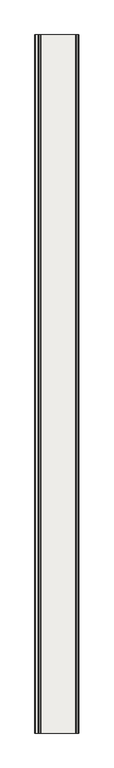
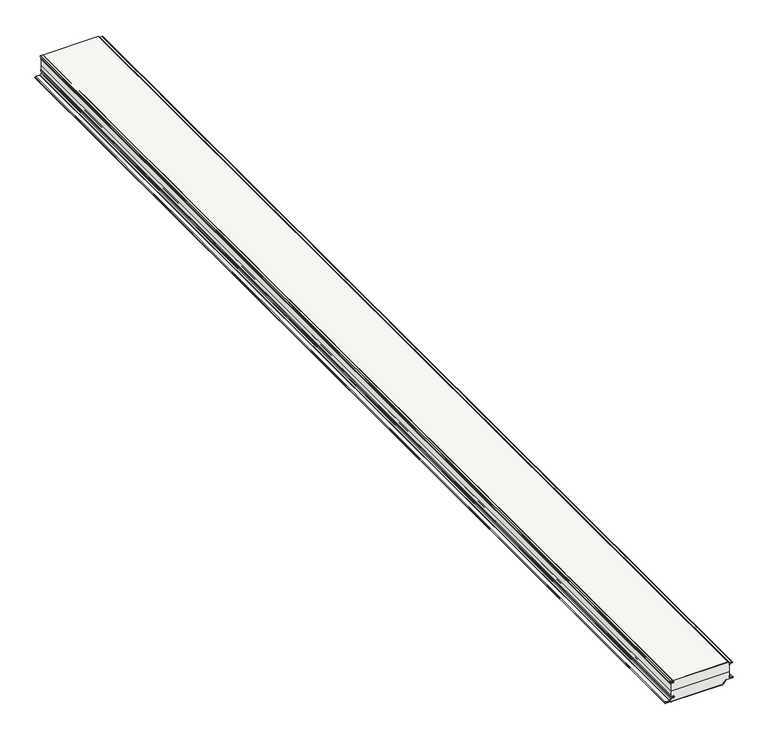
"""IFC4 building model written with IfcOpenShell, lengths in millimetres: covering geometry, Wall sandwich panel SPW-H CORE PIR (single sheet) : -."""

from ifc_helpers import new_model, si_unit, point, frame, frame_2d, origin, place, context, project, spatial, polyline, circle_curve, trimmed, segment, composite_curve, outline, extrude, source, transform, mapped, element, save
from ifc_brep_helpers import plane_surface, cylinder_surface, revolved_surface, advanced_brep


def covering_1c25aafc(model_context):
    return source(origin(), model_context, "Body", "SolidModel", [
        extrude(outline(composite_curve([segment(polyline([(-15.1088808, -358.2590335), (-14.5423642, -347.4488908)]), True, "CONTINUOUS"), segment(trimmed(circle_curve(frame_2d((-9.549216, -347.7105619)), 5.0), [point((-14.5423642, -347.4488908))], [point((-4.5522622, -347.5360557))], False, "CARTESIAN"), True, "CONTINUOUS"), segment(polyline([(-4.5522622, -347.5360557), (-4.0495702, -361.9305506)]), True, "CONTINUOUS"), segment(trimmed(circle_curve(frame_2d((-2.5266447, -361.8240519)), 1.5266447), [point((-4.0495702, -361.9305506))], [point((-1.0, -361.8240519))], True, "CARTESIAN"), True, "CONTINUOUS"), segment(polyline([(-1.0, -361.8240519), (-1.0, -360.2066993), (0.0, -360.2066993), (0.0, -361.8240519)]), True, "CONTINUOUS"), segment(trimmed(circle_curve(frame_2d((-2.5266447, -361.8240519)), 2.5266447), [point((0.0, -361.8240519))], [point((-5.0484281, -361.9807108))], False, "CARTESIAN"), True, "CONTINUOUS"), segment(polyline([(-5.0484281, -361.9807108), (-5.551653, -347.5709569)]), True, "CONTINUOUS"), segment(trimmed(circle_curve(frame_2d((-9.549216, -347.7105619)), 4.0), [point((-5.551653, -347.5709569))], [point((-13.5437346, -347.501225))], True, "CARTESIAN"), True, "CONTINUOUS"), segment(polyline([(-13.5437346, -347.501225), (-14.1102512, -358.3113677)]), True, "CONTINUOUS"), segment(trimmed(circle_curve(frame_2d((-16.1075105, -358.2066993)), 2.0), [point((-14.1102512, -358.3113677))], [point((-16.1075105, -360.2066993))], False, "CARTESIAN"), True, "CONTINUOUS"), segment(polyline([(-16.1075105, -360.2066993), (-18.1075105, -360.2066993), (-18.1075105, -359.2066993), (-16.1075105, -359.2066993)]), True, "CONTINUOUS"), segment(trimmed(circle_curve(frame_2d((-16.1075105, -358.2066993)), 1.0), [point((-16.1075105, -359.2066993))], [point((-15.1088808, -358.2590335))], True, "CARTESIAN"), True, "CONTINUOUS")], self_intersect=False)), frame((0.0, -6000.0, 0.0), z_axis=(0.0, 1.0, 0.0), x_axis=(0.0, 0.0, 1.0)), (0.0, 0.0, 1.0), 6000.0),
        advanced_brep(
        [(-355.7891872, -6000.0, -102.0150874), (-344.5391872, -6000.0, -101.9992045), (-344.2776818, -6000.0, -92.0060522), (-358.4809204, -6000.0, -91.2619406), (-359.2066993, -6000.0, -90.4971426), (-359.2066993, -6000.0, -81.4971426), (-360.2066993, -6000.0, -81.4971426), (-360.2066993, -6000.0, -90.4971426), (-358.5332389, -6000.0, -92.260571), (-344.3300003, -6000.0, -93.0046827), (-344.539863, -6000.0, -100.9992044), (-355.8463575, -6000.0, -101.0151671), (-357.9966384, -6000.0, -102.27871), (-363.3563627, -6000.0, -109.933474), (-365.4042242, -6000.0, -110.9995686), (-388.6210738, -6000.0, -110.9999738), (-388.6209953, -6000.0, -120.0), (-360.2066993, -6000.0, -120.0), (-360.2066993, -6000.0, -119.0), (-388.6209953, -6000.0, -119.0), (-388.6210564, -6000.0, -112.0), (-365.4042068, -6000.0, -111.9995686), (-362.5372007, -6000.0, -110.5070361), (-357.1774764, -6000.0, -102.8522722), (-355.7891872, 0.0, -102.0150874), (-357.1774764, 0.0, -102.8522722), (-362.5372007, 0.0, -110.5070361), (-365.4042068, 0.0, -111.9995686), (-388.6210564, 0.0, -111.9999738), (-388.6209953, 0.0, -119.0), (-360.2066993, 0.0, -119.0), (-360.2066993, 0.0, -120.0), (-388.6209953, 0.0, -120.0), (-388.6210738, 0.0, -111.0), (-365.4042242, 0.0, -110.9995686), (-363.3563627, 0.0, -109.933474), (-357.9966384, 0.0, -102.27871), (-355.8463575, 0.0, -101.0151671), (-344.539863, 0.0, -100.9992044), (-344.3300003, 0.0, -93.0046827), (-358.5332389, 0.0, -92.260571), (-360.2066993, 0.0, -90.4971426), (-360.2066993, 0.0, -81.4971426), (-359.2066993, 0.0, -81.4971426), (-359.2066993, 0.0, -90.4971426), (-358.4809204, 0.0, -91.2619406), (-344.2776818, 0.0, -92.0060522), (-344.5391872, 0.0, -101.9992045)],
        [
            (0, 1),
            (1, 2, circle_curve(frame((-344.5392744, -6000.0, -96.9992045), z_axis=(0.0, -1.0, 0.0), x_axis=(1.0, 0.0, 0.0)), 5.0)),
            (2, 3),
            (3, 4, circle_curve(frame((-358.4408524, -6000.0, -90.4971426), z_axis=(0.0, 1.0, 0.0), x_axis=(1.0, 0.0, 0.0)), 0.7658469)),
            (4, 5),
            (5, 6),
            (6, 7),
            (7, 8, circle_curve(frame((-358.4408524, -6000.0, -90.4971426), z_axis=(0.0, -1.0, 0.0), x_axis=(1.0, 0.0, 0.0)), 1.7658469)),
            (8, 9),
            (9, 10, circle_curve(frame((-344.5392744, -6000.0, -96.9992045), z_axis=(0.0, 1.0, 0.0), x_axis=(1.0, 0.0, 0.0)), 4.0)),
            (10, 11),
            (11, 12, circle_curve(frame((-355.5391523, -6000.0, -103.9993964), z_axis=(0.0, -1.0, 0.0), x_axis=(1.0, 0.0, 0.0)), 3.0)),
            (12, 13),
            (13, 14, circle_curve(frame((-365.4042679, -6000.0, -108.4995686), z_axis=(0.0, 1.0, 0.0), x_axis=(1.0, 0.0, 0.0)), 2.5)),
            (14, 15),
            (15, 16, circle_curve(frame((-388.6209953, -6000.0, -115.5), z_axis=(0.0, -1.0, 0.0), x_axis=(1.0, 0.0, 0.0)), 4.5)),
            (16, 17),
            (17, 18),
            (18, 19),
            (19, 20, circle_curve(frame((-388.6209953, -6000.0, -115.5), z_axis=(0.0, 1.0, 0.0), x_axis=(1.0, 0.0, 0.0)), 3.5)),
            (20, 21),
            (21, 22, circle_curve(frame((-365.4042679, -6000.0, -108.4995686), z_axis=(0.0, -1.0, 0.0), x_axis=(1.0, 0.0, 0.0)), 3.5)),
            (22, 23),
            (23, 0, circle_curve(frame((-355.5391523, -6000.0, -103.9993964), z_axis=(0.0, 1.0, 0.0), x_axis=(1.0, 0.0, 0.0)), 2.0)),
            (24, 25, circle_curve(frame((-355.5391523, 0.0, -103.9993964), z_axis=(0.0, -1.0, 0.0), x_axis=(1.0, 0.0, 0.0)), 2.0)),
            (25, 26),
            (26, 27, circle_curve(frame((-365.4042679, 0.0, -108.4995686), z_axis=(0.0, 1.0, 0.0), x_axis=(1.0, 0.0, 0.0)), 3.5)),
            (27, 28),
            (28, 29, circle_curve(frame((-388.6209953, 0.0, -115.5), z_axis=(0.0, -1.0, 0.0), x_axis=(1.0, 0.0, 0.0)), 3.5)),
            (29, 30),
            (30, 31),
            (31, 32),
            (32, 33, circle_curve(frame((-388.6209953, 0.0, -115.5), z_axis=(0.0, 1.0, 0.0), x_axis=(1.0, 0.0, 0.0)), 4.5)),
            (33, 34),
            (34, 35, circle_curve(frame((-365.4042679, 0.0, -108.4995686), z_axis=(0.0, -1.0, 0.0), x_axis=(1.0, 0.0, 0.0)), 2.5)),
            (35, 36),
            (36, 37, circle_curve(frame((-355.5391523, 0.0, -103.9993964), z_axis=(0.0, 1.0, 0.0), x_axis=(1.0, 0.0, 0.0)), 3.0)),
            (37, 38),
            (38, 39, circle_curve(frame((-344.5392744, 0.0, -96.9992045), z_axis=(0.0, -1.0, 0.0), x_axis=(1.0, 0.0, 0.0)), 4.0)),
            (39, 40),
            (40, 41, circle_curve(frame((-358.4408524, 0.0, -90.4971426), z_axis=(0.0, 1.0, 0.0), x_axis=(1.0, 0.0, 0.0)), 1.7658469)),
            (41, 42),
            (42, 43),
            (43, 44),
            (44, 45, circle_curve(frame((-358.4408524, 0.0, -90.4971426), z_axis=(0.0, -1.0, 0.0), x_axis=(1.0, 0.0, 0.0)), 0.7658469)),
            (45, 46),
            (46, 47, circle_curve(frame((-344.5392744, 0.0, -96.9992045), z_axis=(0.0, 1.0, 0.0), x_axis=(1.0, 0.0, 0.0)), 5.0)),
            (47, 24),
            (0, 24),
            (47, 1),
            (46, 2),
            (45, 3),
            (44, 4),
            (43, 5),
            (42, 6),
            (16, 32),
            (31, 17),
            (30, 18),
            (29, 19),
            (41, 7),
            (40, 8),
            (39, 9),
            (38, 10),
            (37, 11),
            (36, 12),
            (35, 13),
            (34, 14),
            (33, 15),
            (20, 28),
            (27, 21),
            (26, 22),
            (25, 23),
        ],
        [
            plane_surface(frame((-360.2066993, -6000.0, -120.0), z_axis=(0.0, -1.0, 0.0), x_axis=(0.0, 0.0, -1.0))),
            plane_surface(frame((-360.2066993, 0.0, -120.0), z_axis=(0.0, 1.0, 0.0), x_axis=(0.0, 0.0, -1.0))),
            plane_surface(frame((-355.7891872, -6000.0, -102.0150874), z_axis=(0.001411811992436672, 0.0, -0.9999990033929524), x_axis=(0.0, 1.0, 0.0))),
            cylinder_surface(frame((-344.5392744, -6000.0, -96.9992045), z_axis=(0.0, -1.0, 0.0), x_axis=(1.0, 0.0, 0.0)), 5.0),
            plane_surface(frame((-344.2776818, -6000.0, -92.0060522), z_axis=(0.05231852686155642, 0.0, 0.998630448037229), x_axis=(0.0, 1.0, 0.0))),
            revolved_surface(polyline([(-357.6750055, 0.0, -90.4971426), (-357.6750055, -6000.0, -90.4971426)]), (-358.4408524, -6000.0, -90.4971426), (0.0, 1.0, 0.0)),
            plane_surface(frame((-359.2066993, -6000.0, -90.4971426), z_axis=(1.0, 0.0, 0.0), x_axis=(0.0, 1.0, 0.0))),
            plane_surface(frame((-359.2066993, -6000.0, -81.4971426), z_axis=(0.0, 0.0, 1.0), x_axis=(0.0, 1.0, 0.0))),
            plane_surface(frame((-388.6209953, -6000.0, -120.0), z_axis=(0.0, 0.0, -1.0), x_axis=(0.0, 1.0, 0.0))),
            plane_surface(frame((-360.2066993, -6000.0, -120.0), z_axis=(1.0, 0.0, 0.0), x_axis=(0.0, 1.0, 0.0))),
            plane_surface(frame((-360.2066993, -6000.0, -119.0), z_axis=(0.0, 0.0, 1.0), x_axis=(0.0, 1.0, 0.0))),
            plane_surface(frame((-360.2066993, -6000.0, -81.4971426), z_axis=(-1.0, 0.0, 0.0), x_axis=(0.0, 1.0, 0.0))),
            cylinder_surface(frame((-358.4408524, -6000.0, -90.4971426), z_axis=(0.0, -1.0, 0.0), x_axis=(1.0, 0.0, 0.0)), 1.7658469),
            plane_surface(frame((-358.5332389, -6000.0, -92.260571), z_axis=(-0.05231852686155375, 0.0, -0.9986304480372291), x_axis=(0.0, 1.0, 0.0))),
            revolved_surface(polyline([(-340.5392744, 0.0, -96.9992045), (-340.5392744, -6000.0, -96.9992045)]), (-344.5392744, -6000.0, -96.9992045), (0.0, 1.0, 0.0)),
            plane_surface(frame((-344.539863, -6000.0, -100.9992044), z_axis=(-0.0014118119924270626, 0.0, 0.9999990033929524), x_axis=(0.0, 1.0, 0.0))),
            cylinder_surface(frame((-355.5391523, -6000.0, -103.9993964), z_axis=(0.0, -1.0, 0.0), x_axis=(1.0, 0.0, 0.0)), 3.0),
            plane_surface(frame((-357.9966384, -6000.0, -102.27871), z_axis=(-0.8191620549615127, 0.0, 0.573562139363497), x_axis=(0.0, 1.0, 0.0))),
            revolved_surface(polyline([(-362.9042679, 0.0, -108.4995686), (-362.9042679, -6000.0, -108.4995686)]), (-365.4042679, -6000.0, -108.4995686), (0.0, 1.0, 0.0)),
            plane_surface(frame((-365.4042242, -6000.0, -110.9995686), z_axis=(-1.745329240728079e-05, 0.0, 0.9999999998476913), x_axis=(0.0, 1.0, 0.0))),
            plane_surface(frame((-388.6210564, -6000.0, -111.9999738), z_axis=(1.7453292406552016e-05, 0.0, -0.9999999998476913), x_axis=(0.0, 1.0, 0.0))),
            cylinder_surface(frame((-365.4042679, -6000.0, -108.4995686), z_axis=(0.0, -1.0, 0.0), x_axis=(1.0, 0.0, 0.0)), 3.5),
            plane_surface(frame((-362.5372007, -6000.0, -110.5070361), z_axis=(0.8191620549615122, 0.0, -0.5735621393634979), x_axis=(0.0, 1.0, 0.0))),
            revolved_surface(polyline([(-353.5391523, 0.0, -103.9993964), (-353.5391523, -6000.0, -103.9993964)]), (-355.5391523, -6000.0, -103.9993964), (0.0, 1.0, 0.0)),
            cylinder_surface(frame((-388.6209953, -6000.0, -115.5), z_axis=(0.0, -1.0, 0.0), x_axis=(1.0, 0.0, 0.0)), 4.5),
            revolved_surface(polyline([(-385.1209953, 0.0, -115.5), (-385.1209953, -6000.0, -115.5)]), (-388.6209953, -6000.0, -115.5), (0.0, 1.0, 0.0)),
        ],
        [
            (0, [[1, 2, 3, 4, 5, 6, 7, 8, 9, 10, 11, 12, 13, 14, 15, 16, 17, 18, 19, 20, 21, 22, 23, 24]]),
            (1, [[25, 26, 27, 28, 29, 30, 31, 32, 33, 34, 35, 36, 37, 38, 39, 40, 41, 42, 43, 44, 45, 46, 47, 48]]),
            (2, [[-1, 49, -48, 50]]),
            (3, [[-2, -50, -47, 51]]),
            (4, [[-3, -51, -46, 52]]),
            (5, [[-4, -52, -45, 53]]),
            (6, [[-5, -53, -44, 54]]),
            (7, [[-6, -54, -43, 55]]),
            (8, [[-17, 56, -32, 57]]),
            (9, [[-18, -57, -31, 58]]),
            (10, [[-19, -58, -30, 59]]),
            (11, [[-7, -55, -42, 60]]),
            (12, [[-8, -60, -41, 61]]),
            (13, [[-9, -61, -40, 62]]),
            (14, [[-10, -62, -39, 63]]),
            (15, [[-11, -63, -38, 64]]),
            (16, [[-12, -64, -37, 65]]),
            (17, [[-13, -65, -36, 66]]),
            (18, [[-14, -66, -35, 67]]),
            (19, [[-15, -67, -34, 68]]),
            (20, [[-21, 69, -28, 70]]),
            (21, [[-22, -70, -27, 71]]),
            (22, [[-23, -71, -26, 72]]),
            (23, [[-24, -72, -25, -49]]),
            (24, [[-16, -68, -33, -56]]),
            (25, [[-20, -59, -29, -69]]),
        ],
    ),
        extrude(outline(composite_curve([segment(polyline([(-1.0, -360.2066993), (-1.0, -42.1186621)]), True, "CONTINUOUS"), segment(trimmed(circle_curve(frame_2d((-2.5, -42.1186621)), 1.5), [point((-1.0, -42.1186621))], [point((-2.5, -40.6186621))], True, "CARTESIAN"), True, "CONTINUOUS"), segment(polyline([(-2.5, -40.6186621), (-4.3, -40.6186621)]), True, "CONTINUOUS"), segment(trimmed(circle_curve(frame_2d((-4.3, -38.1186621)), 2.5), [point((-4.3, -40.6186621))], [point((-6.7984771, -38.2059108))], False, "CARTESIAN"), True, "CONTINUOUS"), segment(polyline([(-6.7984771, -38.2059108), (-7.363951, -22.012857)]), True, "CONTINUOUS"), segment(trimmed(circle_curve(frame_2d((-9.3627326, -22.082656)), 2.0), [point((-7.363951, -22.012857))], [point((-11.3599917, -21.9779841))], True, "CARTESIAN"), True, "CONTINUOUS"), segment(polyline([(-11.3599917, -21.9779841), (-11.921027, -32.6831758)]), True, "CONTINUOUS"), segment(trimmed(circle_curve(frame_2d((-15.4162304, -32.5)), 3.5), [point((-11.921027, -32.6831758))], [point((-15.4162304, -36.0))], False, "CARTESIAN"), True, "CONTINUOUS"), segment(polyline([(-15.4162304, -36.0), (-18.1062304, -36.0), (-18.1062304, -35.0), (-15.4162304, -35.0)]), True, "CONTINUOUS"), segment(trimmed(circle_curve(frame_2d((-15.4162304, -32.5)), 2.5), [point((-15.4162304, -35.0))], [point((-12.9196566, -32.6308399))], True, "CARTESIAN"), True, "CONTINUOUS"), segment(polyline([(-12.9196566, -32.6308399), (-12.3586212, -21.9256482)]), True, "CONTINUOUS"), segment(trimmed(circle_curve(frame_2d((-9.3627326, -22.082656)), 3.0), [point((-12.3586212, -21.9256482))], [point((-6.3645601, -21.9779575))], False, "CARTESIAN"), True, "CONTINUOUS"), segment(polyline([(-6.3645601, -21.9779575), (-5.7990862, -38.1710114)]), True, "CONTINUOUS"), segment(trimmed(circle_curve(frame_2d((-4.3, -38.1186621)), 1.5), [point((-5.7990862, -38.1710114))], [point((-4.3, -39.6186621))], True, "CARTESIAN"), True, "CONTINUOUS"), segment(polyline([(-4.3, -39.6186621), (-2.5, -39.6186621)]), True, "CONTINUOUS"), segment(trimmed(circle_curve(frame_2d((-2.5, -42.1186621)), 2.5), [point((-2.5, -39.6186621))], [point((0.0, -42.1186621))], False, "CARTESIAN"), True, "CONTINUOUS"), segment(polyline([(0.0, -42.1186621), (0.0, -360.2066993), (-1.0, -360.2066993)]), True, "CONTINUOUS")], self_intersect=False)), frame((0.0, -6000.0, 0.0), z_axis=(0.0, 1.0, 0.0), x_axis=(0.0, 0.0, 1.0)), (0.0, 0.0, 1.0), 6000.0),
        extrude(outline(composite_curve([segment(polyline([(-119.0, -360.2066993), (-120.0, -360.2066993), (-120.0, -73.4477183)]), True, "CONTINUOUS"), segment(trimmed(circle_curve(frame_2d((-115.0, -73.4477183)), 5.0), [point((-120.0, -73.4477183))], [point((-115.0, -68.4477183))], False, "CARTESIAN"), True, "CONTINUOUS"), segment(polyline([(-115.0, -68.4477183), (-112.008232, -68.4477183)]), True, "CONTINUOUS"), segment(trimmed(circle_curve(frame_2d((-112.008232, -66.4315256)), 2.0161927), [point((-112.008232, -68.4477183))], [point((-109.9920393, -66.4315256))], True, "CARTESIAN"), True, "CONTINUOUS"), segment(polyline([(-109.9920393, -66.4315256), (-109.9920393, -60.9141788)]), True, "CONTINUOUS"), segment(trimmed(circle_curve(frame_2d((-107.4959919, -60.9141788)), 2.4960474), [point((-109.9920393, -60.9141788))], [point((-107.9326372, -58.4566204))], False, "CARTESIAN"), True, "CONTINUOUS"), segment(polyline([(-107.9326372, -58.4566204), (-101.6533464, -57.3460478)]), True, "CONTINUOUS"), segment(trimmed(circle_curve(frame_2d((-102.0004127, -55.3763918)), 2.0), [point((-101.6533464, -57.3460478))], [point((-100.0004127, -55.3763918))], True, "CARTESIAN"), True, "CONTINUOUS"), segment(polyline([(-100.0004127, -55.3763918), (-100.0004127, -18.8763918)]), True, "CONTINUOUS"), segment(trimmed(circle_curve(frame_2d((-97.0004127, -18.8763918)), 3.0), [point((-100.0004127, -18.8763918))], [point((-94.0045241, -18.7193839))], False, "CARTESIAN"), True, "CONTINUOUS"), segment(polyline([(-94.0045241, -18.7193839), (-93.2754556, -32.6308399)]), True, "CONTINUOUS"), segment(trimmed(circle_curve(frame_2d((-90.7788817, -32.5)), 2.5), [point((-93.2754556, -32.6308399))], [point((-90.7788817, -35.0))], True, "CARTESIAN"), True, "CONTINUOUS"), segment(polyline([(-90.7788817, -35.0), (-81.4988817, -35.0), (-81.4988817, -36.0), (-90.7788817, -36.0)]), True, "CONTINUOUS"), segment(trimmed(circle_curve(frame_2d((-90.7788817, -32.5)), 3.5), [point((-90.7788817, -36.0))], [point((-94.2740851, -32.6831758))], False, "CARTESIAN"), True, "CONTINUOUS"), segment(polyline([(-94.2740851, -32.6831758), (-95.0031536, -18.7717199)]), True, "CONTINUOUS"), segment(trimmed(circle_curve(frame_2d((-97.0004127, -18.8763918)), 2.0), [point((-95.0031536, -18.7717199))], [point((-99.0004127, -18.8763918))], True, "CARTESIAN"), True, "CONTINUOUS"), segment(polyline([(-99.0004127, -18.8763918), (-99.0004127, -55.3763918)]), True, "CONTINUOUS"), segment(trimmed(circle_curve(frame_2d((-102.0004127, -55.3763918)), 3.0), [point((-99.0004127, -55.3763918))], [point((-101.4794682, -58.330815))], False, "CARTESIAN"), True, "CONTINUOUS"), segment(polyline([(-101.4794682, -58.330815), (-107.7580406, -59.4412605)]), True, "CONTINUOUS"), segment(trimmed(circle_curve(frame_2d((-107.4959919, -60.9141788)), 1.4960474), [point((-107.7580406, -59.4412605))], [point((-108.9920393, -60.9141788))], True, "CARTESIAN"), True, "CONTINUOUS"), segment(polyline([(-108.9920393, -60.9141788), (-108.9920393, -66.4315256)]), True, "CONTINUOUS"), segment(trimmed(circle_curve(frame_2d((-112.008232, -66.4315256)), 3.0161927), [point((-108.9920393, -66.4315256))], [point((-112.008232, -69.4477183))], False, "CARTESIAN"), True, "CONTINUOUS"), segment(polyline([(-112.008232, -69.4477183), (-115.0, -69.4477183)]), True, "CONTINUOUS"), segment(trimmed(circle_curve(frame_2d((-115.0, -73.4477183)), 4.0), [point((-115.0, -69.4477183))], [point((-119.0, -73.4477183))], True, "CARTESIAN"), True, "CONTINUOUS"), segment(polyline([(-119.0, -73.4477183), (-119.0, -360.2066993)]), True, "CONTINUOUS")], self_intersect=False)), frame((0.0, -6000.0, 0.0), z_axis=(0.0, 1.0, 0.0), x_axis=(0.0, 0.0, 1.0)), (0.0, 0.0, 1.0), 6000.0),
        advanced_brep(
        [(-388.6209953, -6000.0, -119.0), (-360.2066993, -6000.0, -119.0), (-73.4477183, -6000.0, -119.0), (-69.4477183, -6000.0, -115.0), (-69.4477183, -6000.0, -112.0078193), (-66.4315256, -6000.0, -108.9916266), (-60.9141788, -6000.0, -108.9916266), (-59.4412605, -6000.0, -107.7576279), (-58.330815, -6000.0, -101.4790555), (-55.3763918, -6000.0, -99.0), (-18.8763918, -6000.0, -99.0), (-18.7717199, -6000.0, -95.0027409), (-32.6831758, -6000.0, -94.2736724), (-36.0, -6000.0, -90.778469), (-36.0, -6000.0, -60.0), (-359.2066993, -6000.0, -60.0), (-359.2066993, -6000.0, -90.4971426), (-358.4809204, -6000.0, -91.2619406), (-344.2776818, -6000.0, -92.0060522), (-344.5391872, -6000.0, -101.9992045), (-355.5391872, -6000.0, -101.9993964), (-357.1774764, -6000.0, -102.8522722), (-362.5372007, -6000.0, -110.5070361), (-365.4042068, -6000.0, -111.9995686), (-388.6210564, -6000.0, -111.9999738), (-360.2066993, 0.0, -119.0), (-388.6209953, 0.0, -119.0), (-388.6210564, 0.0, -112.0), (-365.4042068, 0.0, -111.9995686), (-362.5372007, 0.0, -110.5070361), (-357.1774764, 0.0, -102.8522722), (-355.5391872, 0.0, -101.9993964), (-344.5391872, 0.0, -101.9992045), (-344.2776818, 0.0, -92.0060522), (-358.4809204, 0.0, -91.2619406), (-359.2066993, 0.0, -90.4971426), (-359.2066993, 0.0, -60.0), (-36.0, 0.0, -60.0), (-36.0, 0.0, -90.778469), (-32.6831758, 0.0, -94.2736724), (-18.7717199, 0.0, -95.0027409), (-18.8763918, 0.0, -99.0), (-55.3763918, 0.0, -99.0), (-58.330815, 0.0, -101.4790555), (-59.4412605, 0.0, -107.7576279), (-60.9141788, 0.0, -108.9916266), (-66.4315256, 0.0, -108.9916266), (-69.4477183, 0.0, -112.0078193), (-69.4477183, 0.0, -115.0), (-73.4477183, 0.0, -119.0)],
        [
            (0, 1),
            (1, 2),
            (2, 3, circle_curve(frame((-73.4477183, -6000.0, -115.0), z_axis=(0.0, -1.0, 0.0), x_axis=(-1.0, 0.0, 0.0)), 4.0)),
            (3, 4),
            (4, 5, circle_curve(frame((-66.4315256, -6000.0, -112.0078193), z_axis=(0.0, 1.0, 0.0), x_axis=(-1.0, 0.0, 0.0)), 3.0161927)),
            (5, 6),
            (6, 7, circle_curve(frame((-60.9141788, -6000.0, -107.4955792), z_axis=(0.0, -1.0, 0.0), x_axis=(-1.0, 0.0, 0.0)), 1.4960474)),
            (7, 8),
            (8, 9, circle_curve(frame((-55.3763918, -6000.0, -102.0), z_axis=(0.0, 1.0, 0.0), x_axis=(-1.0, 0.0, 0.0)), 3.0)),
            (9, 10),
            (10, 11, circle_curve(frame((-18.8763918, -6000.0, -97.0), z_axis=(0.0, -1.0, 0.0), x_axis=(-1.0, 0.0, 0.0)), 2.0)),
            (11, 12),
            (12, 13, circle_curve(frame((-32.5, -6000.0, -90.778469), z_axis=(0.0, 1.0, 0.0), x_axis=(-1.0, 0.0, 0.0)), 3.5)),
            (13, 14),
            (14, 15),
            (15, 16),
            (16, 17, circle_curve(frame((-358.4408524, -6000.0, -90.4971426), z_axis=(0.0, -1.0, 0.0), x_axis=(-1.0, 0.0, 0.0)), 0.7658469)),
            (17, 18),
            (18, 19, circle_curve(frame((-344.5392744, -6000.0, -96.9992045), z_axis=(0.0, 1.0, 0.0), x_axis=(-1.0, 0.0, 0.0)), 5.0)),
            (19, 20),
            (20, 21, circle_curve(frame((-355.5391523, -6000.0, -103.9993964), z_axis=(0.0, -1.0, 0.0), x_axis=(-1.0, 0.0, 0.0)), 2.0)),
            (21, 22),
            (22, 23, circle_curve(frame((-365.4042679, -6000.0, -108.4995686), z_axis=(0.0, 1.0, 0.0), x_axis=(-1.0, 0.0, 0.0)), 3.5)),
            (23, 24),
            (24, 0, circle_curve(frame((-388.6209953, -6000.0, -115.5), z_axis=(0.0, -1.0, 0.0), x_axis=(-1.0, 0.0, 0.0)), 3.5)),
            (25, 26),
            (26, 27, circle_curve(frame((-388.6209953, 0.0, -115.5), z_axis=(0.0, 1.0, 0.0), x_axis=(-1.0, 0.0, 0.0)), 3.5)),
            (27, 28),
            (28, 29, circle_curve(frame((-365.4042679, 0.0, -108.4995686), z_axis=(0.0, -1.0, 0.0), x_axis=(-1.0, 0.0, 0.0)), 3.5)),
            (29, 30),
            (30, 31, circle_curve(frame((-355.5391523, 0.0, -103.9993964), z_axis=(0.0, 1.0, 0.0), x_axis=(-1.0, 0.0, 0.0)), 2.0)),
            (31, 32),
            (32, 33, circle_curve(frame((-344.5392744, 0.0, -96.9992045), z_axis=(0.0, -1.0, 0.0), x_axis=(-1.0, 0.0, 0.0)), 5.0)),
            (33, 34),
            (34, 35, circle_curve(frame((-358.4408524, 0.0, -90.4971426), z_axis=(0.0, 1.0, 0.0), x_axis=(-1.0, 0.0, 0.0)), 0.7658469)),
            (35, 36),
            (36, 37),
            (37, 38),
            (38, 39, circle_curve(frame((-32.5, 0.0, -90.778469), z_axis=(0.0, -1.0, 0.0), x_axis=(-1.0, 0.0, 0.0)), 3.5)),
            (39, 40),
            (40, 41, circle_curve(frame((-18.8763918, 0.0, -97.0), z_axis=(0.0, 1.0, 0.0), x_axis=(-1.0, 0.0, 0.0)), 2.0)),
            (41, 42),
            (42, 43, circle_curve(frame((-55.3763918, 0.0, -102.0), z_axis=(0.0, -1.0, 0.0), x_axis=(-1.0, 0.0, 0.0)), 3.0)),
            (43, 44),
            (44, 45, circle_curve(frame((-60.9141788, 0.0, -107.4955792), z_axis=(0.0, 1.0, 0.0), x_axis=(-1.0, 0.0, 0.0)), 1.4960474)),
            (45, 46),
            (46, 47, circle_curve(frame((-66.4315256, 0.0, -112.0078193), z_axis=(0.0, -1.0, 0.0), x_axis=(-1.0, 0.0, 0.0)), 3.0161927)),
            (47, 48),
            (48, 49, circle_curve(frame((-73.4477183, 0.0, -115.0), z_axis=(0.0, 1.0, 0.0), x_axis=(-1.0, 0.0, 0.0)), 4.0)),
            (49, 25),
            (36, 15),
            (14, 37),
            (0, 26),
            (49, 2),
            (23, 28),
            (27, 24),
            (22, 29),
            (21, 30),
            (20, 31),
            (19, 32),
            (18, 33),
            (17, 34),
            (16, 35),
            (13, 38),
            (12, 39),
            (11, 40),
            (10, 41),
            (9, 42),
            (8, 43),
            (7, 44),
            (6, 45),
            (5, 46),
            (4, 47),
            (3, 48),
        ],
        [
            plane_surface(frame((-420.2066993, -6000.0, -60.0), z_axis=(0.0, -1.0, 0.0), x_axis=(-1.0, 0.0, 0.0))),
            plane_surface(frame((-420.2066993, 0.0, -60.0), z_axis=(0.0, 1.0, 0.0), x_axis=(1.0, 0.0, 0.0))),
            plane_surface(frame((15.0, -6000.0, -60.0), z_axis=(0.0, 0.0, 1.0), x_axis=(0.0, 1.0, 0.0))),
            plane_surface(frame((-420.2066993, -6000.0, -119.0), z_axis=(0.0, 0.0, -1.0), x_axis=(0.0, 1.0, 0.0))),
            plane_surface(frame((-388.6210564, -6000.0, -111.9999738), z_axis=(-1.7453294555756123e-05, 0.0, 0.9999999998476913), x_axis=(0.0, 1.0, 0.0))),
            revolved_surface(polyline([(-368.9042679, -6000.0, -108.4995686), (-368.9042679, 0.0, -108.4995686)]), (-365.4042679, -6000.0, -108.4995686), (0.0, -1.0, 0.0)),
            plane_surface(frame((-362.5372007, -6000.0, -110.5070361), z_axis=(-0.8191620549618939, 0.0, 0.5735621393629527), x_axis=(0.0, 1.0, 0.0))),
            cylinder_surface(frame((-355.5391523, -6000.0, -103.9993964), z_axis=(0.0, 1.0, 0.0), x_axis=(-1.0, 0.0, 0.0)), 2.0),
            plane_surface(frame((-355.5391872, -6000.0, -101.9993964), z_axis=(-1.7453292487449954e-05, 0.0, 0.9999999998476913), x_axis=(0.0, 1.0, 0.0))),
            revolved_surface(polyline([(-349.5392744, -6000.0, -96.9992045), (-349.5392744, 0.0, -96.9992045)]), (-344.5392744, -6000.0, -96.9992045), (0.0, -1.0, 0.0)),
            plane_surface(frame((-344.2776818, -6000.0, -92.0060522), z_axis=(-0.05231852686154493, 0.0, -0.9986304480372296), x_axis=(0.0, 1.0, 0.0))),
            cylinder_surface(frame((-358.4408524, -6000.0, -90.4971426), z_axis=(0.0, 1.0, 0.0), x_axis=(-1.0, 0.0, 0.0)), 0.7658469),
            plane_surface(frame((-359.2066993, -6000.0, -90.4971426), z_axis=(-1.0, 0.0, 0.0), x_axis=(0.0, 1.0, 0.0))),
            plane_surface(frame((-36.0, -6000.0, -15.4162304), z_axis=(1.0, 0.0, 0.0), x_axis=(0.0, 1.0, 0.0))),
            revolved_surface(polyline([(-36.0, -6000.0, -90.778469), (-36.0, 0.0, -90.778469)]), (-32.5, -6000.0, -90.778469), (0.0, -1.0, 0.0)),
            plane_surface(frame((-32.6831758, -6000.0, -94.2736724), z_axis=(0.05233595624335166, 0.0, 0.9986295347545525), x_axis=(0.0, 1.0, 0.0))),
            cylinder_surface(frame((-18.8763918, -6000.0, -97.0), z_axis=(0.0, 1.0, 0.0), x_axis=(-1.0, 0.0, 0.0)), 2.0),
            plane_surface(frame((-18.8763918, -6000.0, -99.0), z_axis=(0.0, 0.0, -1.0), x_axis=(0.0, 1.0, 0.0))),
            revolved_surface(polyline([(-58.3763918, -6000.0, -102.0), (-58.3763918, 0.0, -102.0)]), (-55.3763918, -6000.0, -102.0), (0.0, -1.0, 0.0)),
            plane_surface(frame((-58.330815, -6000.0, -101.4790555), z_axis=(0.9847174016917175, 0.0, -0.17415980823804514), x_axis=(0.0, 1.0, 0.0))),
            cylinder_surface(frame((-60.9141788, -6000.0, -107.4955792), z_axis=(0.0, 1.0, 0.0), x_axis=(-1.0, 0.0, 0.0)), 1.4960474),
            plane_surface(frame((-60.9141788, -6000.0, -108.9916266), z_axis=(0.0, 0.0, -1.0), x_axis=(0.0, 1.0, 0.0))),
            revolved_surface(polyline([(-69.4477183, -6000.0, -112.0078193), (-69.4477183, 0.0, -112.0078193)]), (-66.4315256, -6000.0, -112.0078193), (0.0, -1.0, 0.0)),
            plane_surface(frame((-69.4477183, -6000.0, -112.0078193), z_axis=(1.0, 0.0, 0.0), x_axis=(0.0, 1.0, 0.0))),
            cylinder_surface(frame((-73.4477183, -6000.0, -115.0), z_axis=(0.0, 1.0, 0.0), x_axis=(-1.0, 0.0, 0.0)), 4.0),
            cylinder_surface(frame((-388.6209953, -6000.0, -115.5), z_axis=(0.0, 1.0, 0.0), x_axis=(-1.0, 0.0, 0.0)), 3.5),
        ],
        [
            (0, [[1, 2, 3, 4, 5, 6, 7, 8, 9, 10, 11, 12, 13, 14, 15, 16, 17, 18, 19, 20, 21, 22, 23, 24, 25]]),
            (1, [[26, 27, 28, 29, 30, 31, 32, 33, 34, 35, 36, 37, 38, 39, 40, 41, 42, 43, 44, 45, 46, 47, 48, 49, 50]]),
            (2, [[51, -15, 52, -37]]),
            (3, [[-1, 53, -26, -50, 54, -2]]),
            (4, [[55, -28, 56, -24]]),
            (5, [[-55, -23, 57, -29]]),
            (6, [[-57, -22, 58, -30]]),
            (7, [[-58, -21, 59, -31]]),
            (8, [[-59, -20, 60, -32]]),
            (9, [[-60, -19, 61, -33]]),
            (10, [[-61, -18, 62, -34]]),
            (11, [[-62, -17, 63, -35]]),
            (12, [[-63, -16, -51, -36]]),
            (13, [[64, -38, -52, -14]]),
            (14, [[-64, -13, 65, -39]]),
            (15, [[-65, -12, 66, -40]]),
            (16, [[-66, -11, 67, -41]]),
            (17, [[-67, -10, 68, -42]]),
            (18, [[-68, -9, 69, -43]]),
            (19, [[-69, -8, 70, -44]]),
            (20, [[-70, -7, 71, -45]]),
            (21, [[-71, -6, 72, -46]]),
            (22, [[-72, -5, 73, -47]]),
            (23, [[-73, -4, 74, -48]]),
            (24, [[-74, -3, -54, -49]]),
            (25, [[-56, -27, -53, -25]]),
        ],
    ),
        advanced_brep(
        [(-360.2066993, -6000.0, -1.0), (-361.8240519, -6000.0, -1.0), (-361.9305506, -6000.0, -4.0495702), (-347.5360557, -6000.0, -4.5522622), (-347.4488908, -6000.0, -14.5423642), (-358.2590335, -6000.0, -15.1088808), (-359.2066993, -6000.0, -16.1075105), (-359.2066993, -6000.0, -60.0), (-36.0, -6000.0, -60.0), (-36.0, -6000.0, -15.4162304), (-32.6831758, -6000.0, -11.921027), (-21.9779841, -6000.0, -11.3599917), (-22.012857, -6000.0, -7.363951), (-38.2059108, -6000.0, -6.7984771), (-40.6186621, -6000.0, -4.3), (-40.6186621, -6000.0, -2.5), (-42.1186621, -6000.0, -1.0), (-43.1368714, -6000.0, -1.0), (-361.8240519, 0.0, -1.0), (-360.2066993, 0.0, -1.0), (-43.1368714, 0.0, -1.0), (-42.1186621, 0.0, -1.0), (-40.6186621, 0.0, -2.5), (-40.6186621, 0.0, -4.3), (-38.2059108, 0.0, -6.7984771), (-22.012857, 0.0, -7.363951), (-21.9779841, 0.0, -11.3599917), (-32.6831758, 0.0, -11.921027), (-36.0, 0.0, -15.4162304), (-36.0, 0.0, -60.0), (-359.2066993, 0.0, -60.0), (-359.2066993, 0.0, -16.1075105), (-358.2590335, 0.0, -15.1088808), (-347.4488908, 0.0, -14.5423642), (-347.5360557, 0.0, -4.5522622), (-361.9305506, 0.0, -4.0495702)],
        [
            (0, 1),
            (1, 2, circle_curve(frame((-361.8240519, -6000.0, -2.5266447), z_axis=(0.0, -1.0, 0.0), x_axis=(-1.0, 0.0, 0.0)), 1.5266447)),
            (2, 3),
            (3, 4, circle_curve(frame((-347.7105619, -6000.0, -9.549216), z_axis=(0.0, 1.0, 0.0), x_axis=(-1.0, 0.0, 0.0)), 5.0)),
            (4, 5),
            (5, 6, circle_curve(frame((-358.2066993, -6000.0, -16.1075105), z_axis=(0.0, -1.0, 0.0), x_axis=(-1.0, 0.0, 0.0)), 1.0)),
            (6, 7),
            (7, 8),
            (8, 9),
            (9, 10, circle_curve(frame((-32.5, -6000.0, -15.4162304), z_axis=(0.0, 1.0, 0.0), x_axis=(-1.0, 0.0, 0.0)), 3.5)),
            (10, 11),
            (11, 12, circle_curve(frame((-22.082656, -6000.0, -9.3627326), z_axis=(0.0, -1.0, 0.0), x_axis=(-1.0, 0.0, 0.0)), 2.0)),
            (12, 13),
            (13, 14, circle_curve(frame((-38.1186621, -6000.0, -4.3), z_axis=(0.0, 1.0, 0.0), x_axis=(-1.0, 0.0, 0.0)), 2.5)),
            (14, 15),
            (15, 16, circle_curve(frame((-42.1186621, -6000.0, -2.5), z_axis=(0.0, -1.0, 0.0), x_axis=(-1.0, 0.0, 0.0)), 1.5)),
            (16, 17),
            (17, 0),
            (18, 19),
            (19, 20),
            (20, 21),
            (21, 22, circle_curve(frame((-42.1186621, 0.0, -2.5), z_axis=(0.0, 1.0, 0.0), x_axis=(-1.0, 0.0, 0.0)), 1.5)),
            (22, 23),
            (23, 24, circle_curve(frame((-38.1186621, 0.0, -4.3), z_axis=(0.0, -1.0, 0.0), x_axis=(-1.0, 0.0, 0.0)), 2.5)),
            (24, 25),
            (25, 26, circle_curve(frame((-22.082656, 0.0, -9.3627326), z_axis=(0.0, 1.0, 0.0), x_axis=(-1.0, 0.0, 0.0)), 2.0)),
            (26, 27),
            (27, 28, circle_curve(frame((-32.5, 0.0, -15.4162304), z_axis=(0.0, -1.0, 0.0), x_axis=(-1.0, 0.0, 0.0)), 3.5)),
            (28, 29),
            (29, 30),
            (30, 31),
            (31, 32, circle_curve(frame((-358.2066993, 0.0, -16.1075105), z_axis=(0.0, 1.0, 0.0), x_axis=(-1.0, 0.0, 0.0)), 1.0)),
            (32, 33),
            (33, 34, circle_curve(frame((-347.7105619, 0.0, -9.549216), z_axis=(0.0, -1.0, 0.0), x_axis=(-1.0, 0.0, 0.0)), 5.0)),
            (34, 35),
            (35, 18, circle_curve(frame((-361.8240519, 0.0, -2.5266447), z_axis=(0.0, 1.0, 0.0), x_axis=(-1.0, 0.0, 0.0)), 1.5266447)),
            (16, 21),
            (18, 1),
            (7, 30),
            (29, 8),
            (6, 31),
            (5, 32),
            (4, 33),
            (3, 34),
            (2, 35),
            (15, 22),
            (14, 23),
            (13, 24),
            (12, 25),
            (11, 26),
            (10, 27),
            (9, 28),
        ],
        [
            plane_surface(frame((-420.2066993, -6000.0, -1.0), z_axis=(0.0, -1.0, 0.0), x_axis=(-1.0, 0.0, 0.0))),
            plane_surface(frame((-420.2066993, 0.0, -1.0), z_axis=(0.0, 1.0, 0.0), x_axis=(1.0, 0.0, 0.0))),
            plane_surface(frame((-5.0, -6000.0, -1.0), z_axis=(0.0, 0.0, 1.0), x_axis=(0.0, 1.0, 0.0))),
            plane_surface(frame((-420.2066993, -6000.0, -60.0), z_axis=(0.0, 0.0, -1.0), x_axis=(0.0, 1.0, 0.0))),
            plane_surface(frame((-359.2066993, -6000.0, -90.4971426), z_axis=(-1.0, 0.0, 0.0), x_axis=(0.0, 1.0, 0.0))),
            cylinder_surface(frame((-358.2066993, -6000.0, -16.1075105), z_axis=(0.0, 1.0, 0.0), x_axis=(-1.0, 0.0, 0.0)), 1.0),
            plane_surface(frame((-358.2590335, -6000.0, -15.1088808), z_axis=(-0.052334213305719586, 0.0, 0.9986296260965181), x_axis=(0.0, 1.0, 0.0))),
            revolved_surface(polyline([(-352.7105619, -6000.0, -9.549216), (-352.7105619, 0.0, -9.549216)]), (-347.7105619, -6000.0, -9.549216), (0.0, -1.0, 0.0)),
            plane_surface(frame((-347.5360557, -6000.0, -4.5522622), z_axis=(-0.03490124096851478, 0.0, -0.9993907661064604), x_axis=(0.0, 1.0, 0.0))),
            cylinder_surface(frame((-42.1186621, -6000.0, -2.5), z_axis=(0.0, 1.0, 0.0), x_axis=(-1.0, 0.0, 0.0)), 1.5),
            plane_surface(frame((-40.6186621, -6000.0, -2.5), z_axis=(1.0, 0.0, 0.0), x_axis=(0.0, 1.0, 0.0))),
            revolved_surface(polyline([(-40.6186621, -6000.0, -4.3), (-40.6186621, 0.0, -4.3)]), (-38.1186621, -6000.0, -4.3), (0.0, -1.0, 0.0)),
            plane_surface(frame((-38.2059108, -6000.0, -6.7984771), z_axis=(0.03489949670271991, 0.0, 0.9993908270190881), x_axis=(0.0, 1.0, 0.0))),
            cylinder_surface(frame((-22.082656, -6000.0, -9.3627326), z_axis=(0.0, 1.0, 0.0), x_axis=(-1.0, 0.0, 0.0)), 2.0),
            plane_surface(frame((-21.9779841, -6000.0, -11.3599917), z_axis=(0.052335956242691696, 0.0, -0.9986295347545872), x_axis=(0.0, 1.0, 0.0))),
            revolved_surface(polyline([(-36.0, -6000.0, -15.4162304), (-36.0, 0.0, -15.4162304)]), (-32.5, -6000.0, -15.4162304), (0.0, -1.0, 0.0)),
            plane_surface(frame((-36.0, -6000.0, -15.4162304), z_axis=(1.0, 0.0, 0.0), x_axis=(0.0, 1.0, 0.0))),
            cylinder_surface(frame((-361.8240519, -6000.0, -2.5266447), z_axis=(0.0, 1.0, 0.0), x_axis=(-1.0, 0.0, 0.0)), 1.5266447),
        ],
        [
            (0, [[1, 2, 3, 4, 5, 6, 7, 8, 9, 10, 11, 12, 13, 14, 15, 16, 17, 18]]),
            (1, [[19, 20, 21, 22, 23, 24, 25, 26, 27, 28, 29, 30, 31, 32, 33, 34, 35, 36]]),
            (2, [[-1, -18, -17, 37, -21, -20, -19, 38]]),
            (3, [[39, -30, 40, -8]]),
            (4, [[41, -31, -39, -7]]),
            (5, [[-41, -6, 42, -32]]),
            (6, [[-42, -5, 43, -33]]),
            (7, [[-43, -4, 44, -34]]),
            (8, [[-44, -3, 45, -35]]),
            (9, [[46, -22, -37, -16]]),
            (10, [[-46, -15, 47, -23]]),
            (11, [[-47, -14, 48, -24]]),
            (12, [[-48, -13, 49, -25]]),
            (13, [[-49, -12, 50, -26]]),
            (14, [[-50, -11, 51, -27]]),
            (15, [[-51, -10, 52, -28]]),
            (16, [[-52, -9, -40, -29]]),
            (17, [[-45, -2, -38, -36]]),
        ],
    ),
    ])


if __name__ == "__main__":
    model = new_model("IFC4")
    model_context = context("Model", 3, world=origin())
    ifc_project = project(units=[si_unit("LENGTHUNIT", "METRE", prefix="MILLI")], contexts=[model_context])
    site = spatial("IfcSite", under=ifc_project)
    building = spatial("IfcBuilding", under=site)
    placement = place(None, origin())
    covering_shape = covering_1c25aafc(model_context)
    element("IfcCovering", 1, ObjectType="Wall sandwich panel SPW-H CORE PIR (single sheet) : -", at=placement, inside=building, context=model_context, shape_type="MappedRepresentation", body=[
        mapped(covering_shape, transform((0.0, 0.0, 0.0), x_axis=(1.0, 0.0, 0.0), y_axis=(0.0, 1.0, 0.0), z_axis=(0.0, 0.0, 1.0))),
    ])
    save(model, "model.ifc")
